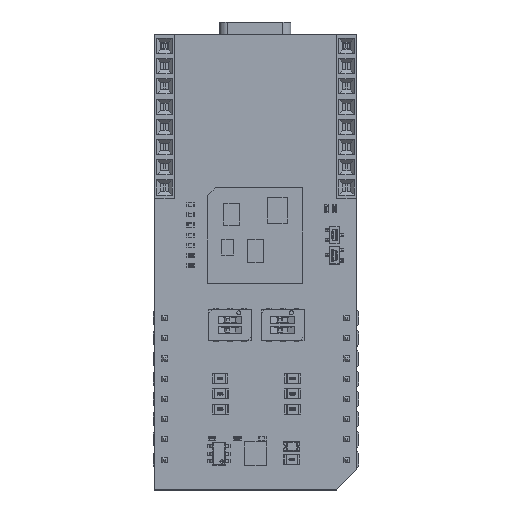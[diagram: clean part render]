
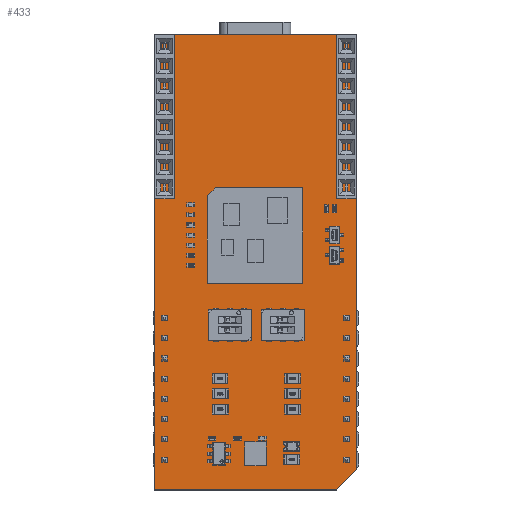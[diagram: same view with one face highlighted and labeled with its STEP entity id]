
A CAD part, top view. The second image highlights one B-rep face of the part: STEP entity #433.
In plain terms, the highlighted planar face has unit normal (0, 0, 1).
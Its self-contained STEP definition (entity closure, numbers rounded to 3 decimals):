
#272 = VERTEX_POINT('',#273);
#273 = CARTESIAN_POINT('',(-1.27,-3.81,1.42));
#279 = EDGE_CURVE('',#272,#280,#282,.T.);
#280 = VERTEX_POINT('',#281);
#281 = CARTESIAN_POINT('',(-1.27,53.34,1.42));
#282 = LINE('',#283,#284);
#283 = CARTESIAN_POINT('',(-1.27,-3.81,1.42));
#284 = VECTOR('',#285,1.);
#285 = DIRECTION('',(0.,1.,0.));
#310 = EDGE_CURVE('',#280,#311,#313,.T.);
#311 = VERTEX_POINT('',#312);
#312 = CARTESIAN_POINT('',(24.13,53.34,1.42));
#313 = LINE('',#314,#315);
#314 = CARTESIAN_POINT('',(-1.27,53.34,1.42));
#315 = VECTOR('',#316,1.);
#316 = DIRECTION('',(1.,0.,0.));
#341 = EDGE_CURVE('',#311,#342,#344,.T.);
#342 = VERTEX_POINT('',#343);
#343 = CARTESIAN_POINT('',(24.13,-1.27,1.42));
#344 = LINE('',#345,#346);
#345 = CARTESIAN_POINT('',(24.13,53.34,1.42));
#346 = VECTOR('',#347,1.);
#347 = DIRECTION('',(0.,-1.,0.));
#372 = EDGE_CURVE('',#342,#373,#375,.T.);
#373 = VERTEX_POINT('',#374);
#374 = CARTESIAN_POINT('',(21.59,-3.81,1.42));
#375 = LINE('',#376,#377);
#376 = CARTESIAN_POINT('',(24.13,-1.27,1.42));
#377 = VECTOR('',#378,1.);
#378 = DIRECTION('',(-0.707,-0.707,0.));
#403 = EDGE_CURVE('',#373,#272,#404,.T.);
#404 = LINE('',#405,#406);
#405 = CARTESIAN_POINT('',(21.59,-3.81,1.42));
#406 = VECTOR('',#407,1.);
#407 = DIRECTION('',(-1.,0.,0.));
#433 = ADVANCED_FACE('',(#434),#441,.F.);
#434 = FACE_BOUND('',#435,.F.);
#435 = EDGE_LOOP('',(#436,#437,#438,#439,#440));
#436 = ORIENTED_EDGE('',*,*,#279,.T.);
#437 = ORIENTED_EDGE('',*,*,#310,.T.);
#438 = ORIENTED_EDGE('',*,*,#341,.T.);
#439 = ORIENTED_EDGE('',*,*,#372,.T.);
#440 = ORIENTED_EDGE('',*,*,#403,.T.);
#441 = PLANE('',#442);
#442 = AXIS2_PLACEMENT_3D('',#443,#444,#445);
#443 = CARTESIAN_POINT('',(11.306,25.033,1.42));
#444 = DIRECTION('',(-0.,-0.,-1.));
#445 = DIRECTION('',(-1.,0.,0.));
